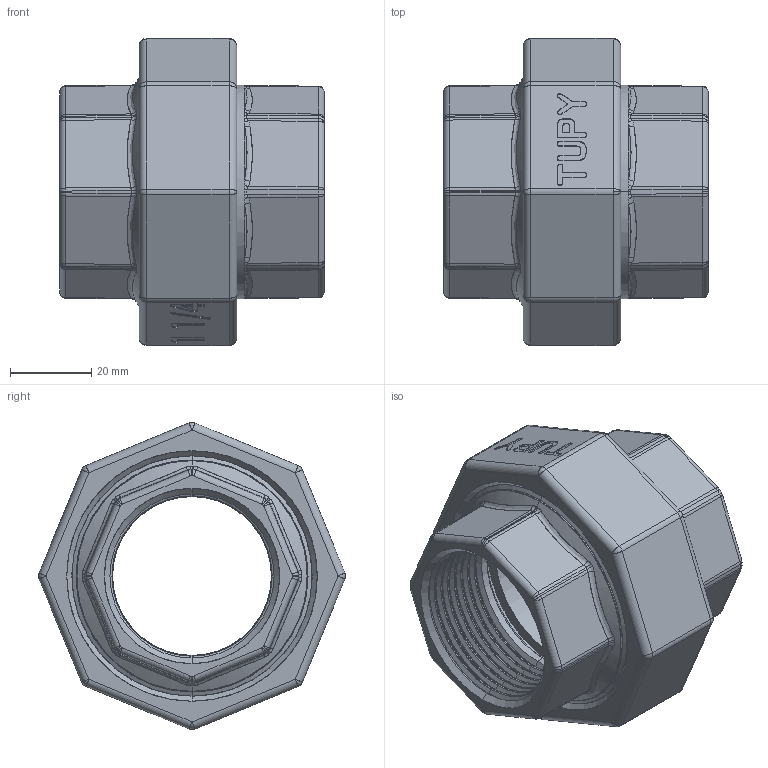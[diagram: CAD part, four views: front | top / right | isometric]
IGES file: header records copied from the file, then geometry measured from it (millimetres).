
Start section: SolidWorks IGES file using analytic representation for surfaces
Global section: file name: C:\Users\Joel Rosa\Desktop\Tubulação\12-62-X\12-62-008.IGS; native system: SolidWorks 2011; preprocessor: SolidWorks 2011; author: Joel Rosa; date: 130721.132110; units: millimetre
Bounding box: 65 x 75.45 x 75.45 mm (x, y, z)
Surface area: 44703.6 mm2 (no closed solid volume)
Topology: 0 solids, 0 shells, 682 faces, 4886 edges, 4880 vertices
Faces by surface type: bspline 457, revolution 225
